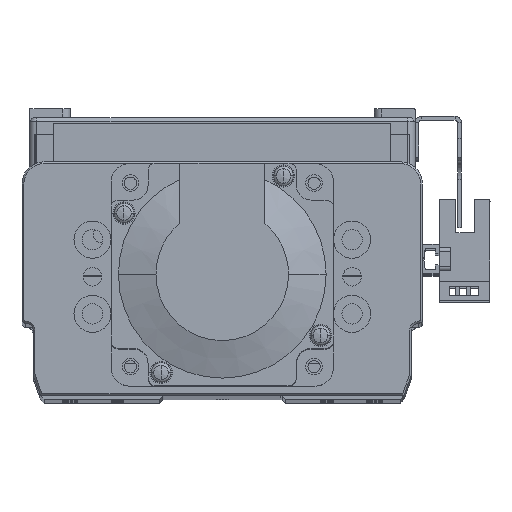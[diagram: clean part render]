
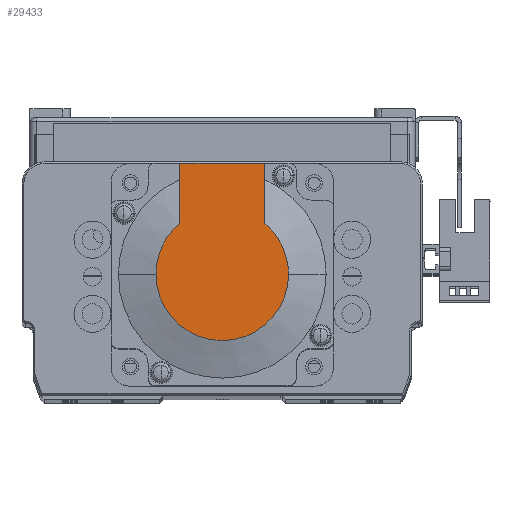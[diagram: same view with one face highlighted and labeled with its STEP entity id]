
A CAD part, top view. The second image highlights one B-rep face of the part: STEP entity #29433.
In plain terms, the highlighted planar face has unit normal (0, 0, 1) as drawn and (-1, 0, 0) by its records, which use the part's own axes.
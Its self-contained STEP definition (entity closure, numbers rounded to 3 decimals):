
#2174 = CARTESIAN_POINT ( 'NONE',  ( -99., 13.735, 11.45 ) ) ;
#2190 = CARTESIAN_POINT ( 'NONE',  ( -99., 0., -17.881 ) ) ;
#2195 = CARTESIAN_POINT ( 'NONE',  ( -99., 0., 17.881 ) ) ;
#2381 = CARTESIAN_POINT ( 'NONE',  ( -99., 13.735, -11.45 ) ) ;
#2418 = CARTESIAN_POINT ( 'NONE',  ( -99., 30., 11.45 ) ) ;
#2423 = CARTESIAN_POINT ( 'NONE',  ( -99., 30., -11.45 ) ) ;
#13577 = ORIENTED_EDGE ( 'NONE', *, *, #18521, .T. ) ;
#13609 = ORIENTED_EDGE ( 'NONE', *, *, #18573, .T. ) ;
#13630 = ORIENTED_EDGE ( 'NONE', *, *, #19514, .F. ) ;
#13684 = ORIENTED_EDGE ( 'NONE', *, *, #19009, .T. ) ;
#13687 = ORIENTED_EDGE ( 'NONE', *, *, #19482, .T. ) ;
#13690 = ORIENTED_EDGE ( 'NONE', *, *, #19571, .F. ) ;
#15459 = DIRECTION ( 'NONE',  ( -1., 0., 0. ) ) ;
#15474 = DIRECTION ( 'NONE',  ( 0., 0., 1. ) ) ;
#15488 = PLANE ( 'NONE',  #47136 ) ;
#15498 = CARTESIAN_POINT ( 'NONE',  ( -99., -8.941, 0. ) ) ;
#17465 = CARTESIAN_POINT ( 'NONE',  ( -99., 0., 0. ) ) ;
#17466 = DIRECTION ( 'NONE',  ( -1., 0., 0. ) ) ;
#17503 = DIRECTION ( 'NONE',  ( 0., 0., -1. ) ) ;
#18521 = EDGE_CURVE ( 'NONE', #20207, #20192, #46154, .T. ) ;
#18573 = EDGE_CURVE ( 'NONE', #20192, #20201, #46141, .T. ) ;
#19009 = EDGE_CURVE ( 'NONE', #20370, #20207, #32622, .T. ) ;
#19482 = EDGE_CURVE ( 'NONE', #20395, #20370, #33202, .T. ) ;
#19514 = EDGE_CURVE ( 'NONE', #20395, #20390, #33258, .T. ) ;
#19571 = EDGE_CURVE ( 'NONE', #20390, #20201, #33369, .T. ) ;
#20192 = VERTEX_POINT ( 'NONE', #2195 ) ;
#20201 = VERTEX_POINT ( 'NONE', #2174 ) ;
#20207 = VERTEX_POINT ( 'NONE', #2190 ) ;
#20370 = VERTEX_POINT ( 'NONE', #2381 ) ;
#20390 = VERTEX_POINT ( 'NONE', #2418 ) ;
#20395 = VERTEX_POINT ( 'NONE', #2423 ) ;
#24652 = EDGE_LOOP ( 'NONE', ( #13687, #13684, #13577, #13609, #13690, #13630 ) ) ;
#29433 = ADVANCED_FACE ( 'NONE', ( #38368 ), #15488, .T. ) ;
#31742 = CARTESIAN_POINT ( 'NONE',  ( -99., 0., 0. ) ) ;
#31756 = DIRECTION ( 'NONE',  ( -1., 0., 0. ) ) ;
#31763 = DIRECTION ( 'NONE',  ( 0., 0., -1. ) ) ;
#31822 = CARTESIAN_POINT ( 'NONE',  ( -99., 0., 0. ) ) ;
#31826 = DIRECTION ( 'NONE',  ( 0., 0., -1. ) ) ;
#31852 = DIRECTION ( 'NONE',  ( -1., 0., 0. ) ) ;
#32622 = CIRCLE ( 'NONE', #46563, 17.881 ) ;
#33202 = LINE ( 'NONE', #35005, #33238 ) ;
#33238 = VECTOR ( 'NONE', #34981, 1000. ) ;
#33258 = LINE ( 'NONE', #35279, #33301 ) ;
#33301 = VECTOR ( 'NONE', #35256, 1000. ) ;
#33369 = LINE ( 'NONE', #35404, #33371 ) ;
#33371 = VECTOR ( 'NONE', #35406, 1000. ) ;
#34981 = DIRECTION ( 'NONE',  ( 0., -1., 0. ) ) ;
#35005 = CARTESIAN_POINT ( 'NONE',  ( -99., -8.941, -11.45 ) ) ;
#35256 = DIRECTION ( 'NONE',  ( 0., 0., 1. ) ) ;
#35279 = CARTESIAN_POINT ( 'NONE',  ( -99., 30., 25. ) ) ;
#35404 = CARTESIAN_POINT ( 'NONE',  ( -99., 0., 11.45 ) ) ;
#35406 = DIRECTION ( 'NONE',  ( 0., -1., 0. ) ) ;
#38368 = FACE_OUTER_BOUND ( 'NONE', #24652, .T. ) ;
#46141 = CIRCLE ( 'NONE', #46486, 17.881 ) ;
#46154 = CIRCLE ( 'NONE', #46453, 17.881 ) ;
#46453 = AXIS2_PLACEMENT_3D ( 'NONE', #31742, #31756, #31763 ) ;
#46486 = AXIS2_PLACEMENT_3D ( 'NONE', #31822, #31852, #31826 ) ;
#46563 = AXIS2_PLACEMENT_3D ( 'NONE', #17465, #17466, #17503 ) ;
#47136 = AXIS2_PLACEMENT_3D ( 'NONE', #15498, #15459, #15474 ) ;
